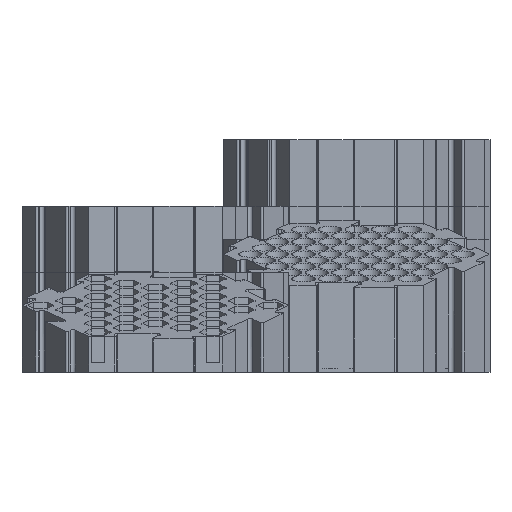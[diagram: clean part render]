
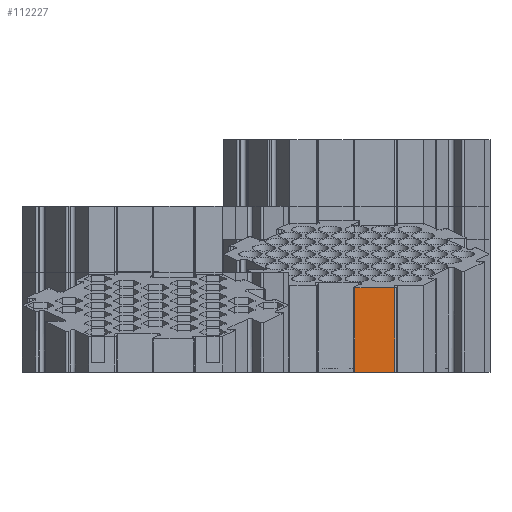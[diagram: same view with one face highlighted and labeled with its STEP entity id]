
A CAD part, front view. The second image highlights one B-rep face of the part: STEP entity #112227.
In plain terms, the highlighted planar face has unit normal (0, -1, 0).
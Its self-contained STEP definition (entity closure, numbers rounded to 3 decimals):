
#4062=PLANE('',#119114);
#10117=FACE_OUTER_BOUND('',#16882,.T.);
#16882=EDGE_LOOP('',(#90065,#90066,#90067,#90068));
#27309=LINE('',#168486,#41590);
#27310=LINE('',#168489,#41591);
#27311=LINE('',#168491,#41592);
#27312=LINE('',#168492,#41593);
#41590=VECTOR('',#135877,10.);
#41591=VECTOR('',#135880,10.);
#41592=VECTOR('',#135881,10.);
#41593=VECTOR('',#135882,10.);
#55546=VERTEX_POINT('',#168482);
#55547=VERTEX_POINT('',#168484);
#55548=VERTEX_POINT('',#168488);
#55549=VERTEX_POINT('',#168490);
#68296=EDGE_CURVE('',#55546,#55547,#27309,.T.);
#68297=EDGE_CURVE('',#55546,#55548,#27310,.T.);
#68298=EDGE_CURVE('',#55549,#55547,#27311,.F.);
#68299=EDGE_CURVE('',#55548,#55549,#27312,.T.);
#90065=ORIENTED_EDGE('',*,*,#68297,.F.);
#90066=ORIENTED_EDGE('',*,*,#68296,.T.);
#90067=ORIENTED_EDGE('',*,*,#68298,.F.);
#90068=ORIENTED_EDGE('',*,*,#68299,.F.);
#112227=ADVANCED_FACE('',(#10117),#4062,.T.);
#119114=AXIS2_PLACEMENT_3D('',#168487,#135878,#135879);
#135877=DIRECTION('',(0.,0.,1.));
#135878=DIRECTION('center_axis',(0.,-1.,0.));
#135879=DIRECTION('ref_axis',(1.,0.,0.));
#135880=DIRECTION('',(-1.,0.,0.));
#135881=DIRECTION('',(-1.,0.,0.));
#135882=DIRECTION('',(0.,0.,1.));
#168482=CARTESIAN_POINT('',(11.48,-247.8,0.));
#168484=CARTESIAN_POINT('',(11.48,-247.8,25.441));
#168486=CARTESIAN_POINT('',(11.48,-247.8,0.));
#168487=CARTESIAN_POINT('Origin',(-0.52,-247.8,0.));
#168488=CARTESIAN_POINT('',(-0.52,-247.8,0.));
#168489=CARTESIAN_POINT('',(11.48,-247.8,0.));
#168490=CARTESIAN_POINT('',(-0.52,-247.8,25.441));
#168491=CARTESIAN_POINT('',(-0.26,-247.8,25.441));
#168492=CARTESIAN_POINT('',(-0.52,-247.8,0.));
